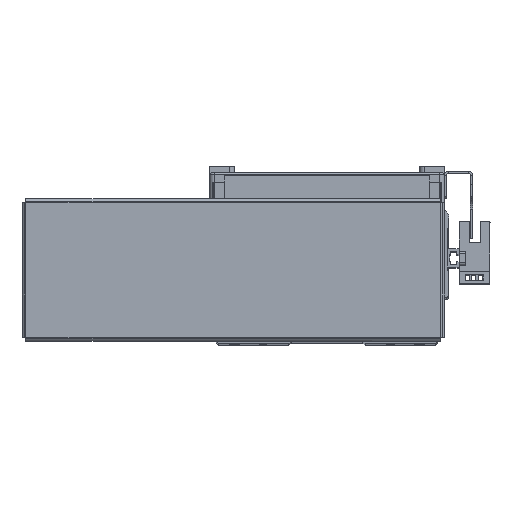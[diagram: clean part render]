
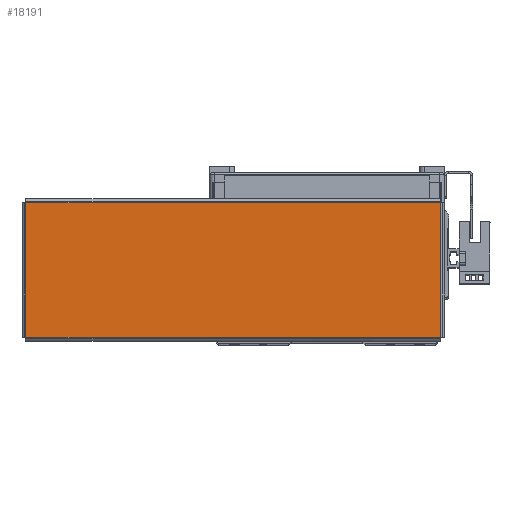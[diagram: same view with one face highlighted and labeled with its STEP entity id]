
A CAD part, top view. The second image highlights one B-rep face of the part: STEP entity #18191.
In plain terms, the highlighted planar face has unit normal (0, 0, 1) as drawn and (0, -1, 0) by its records, which use the part's own axes.
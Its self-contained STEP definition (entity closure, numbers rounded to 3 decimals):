
#4266 = VERTEX_POINT ( 'NONE', #55390 ) ;
#4271 = VERTEX_POINT ( 'NONE', #55357 ) ;
#4279 = VERTEX_POINT ( 'NONE', #55391 ) ;
#4290 = VERTEX_POINT ( 'NONE', #55392 ) ;
#7777 = FACE_OUTER_BOUND ( 'NONE', #24374, .T. ) ;
#18191 = ADVANCED_FACE ( 'NONE', ( #7777 ), #28172, .F. ) ;
#20720 = AXIS2_PLACEMENT_3D ( 'NONE', #28188, #28192, #28165 ) ;
#24374 = EDGE_LOOP ( 'NONE', ( #58304, #54979, #54999, #54986 ) ) ;
#28165 = DIRECTION ( 'NONE',  ( 0., 0., 1. ) ) ;
#28172 = PLANE ( 'NONE',  #20720 ) ;
#28188 = CARTESIAN_POINT ( 'NONE',  ( 0., -1., 0. ) ) ;
#28192 = DIRECTION ( 'NONE',  ( 0., 1., 0. ) ) ;
#44248 = EDGE_CURVE ( 'NONE', #4266, #4271, #45868, .T. ) ;
#44284 = EDGE_CURVE ( 'NONE', #4279, #4266, #46068, .T. ) ;
#44316 = EDGE_CURVE ( 'NONE', #4271, #4290, #46176, .T. ) ;
#44319 = EDGE_CURVE ( 'NONE', #4290, #4279, #46206, .T. ) ;
#45868 = LINE ( 'NONE', #61484, #45982 ) ;
#45982 = VECTOR ( 'NONE', #61480, 1000. ) ;
#46068 = LINE ( 'NONE', #61650, #46102 ) ;
#46102 = VECTOR ( 'NONE', #61633, 1000. ) ;
#46176 = LINE ( 'NONE', #61767, #46266 ) ;
#46202 = VECTOR ( 'NONE', #61703, 1000. ) ;
#46206 = LINE ( 'NONE', #61774, #46202 ) ;
#46266 = VECTOR ( 'NONE', #61770, 1000. ) ;
#54979 = ORIENTED_EDGE ( 'NONE', *, *, #44248, .T. ) ;
#54986 = ORIENTED_EDGE ( 'NONE', *, *, #44319, .T. ) ;
#54999 = ORIENTED_EDGE ( 'NONE', *, *, #44316, .T. ) ;
#55357 = CARTESIAN_POINT ( 'NONE',  ( 91.863, -1., 29.763 ) ) ;
#55390 = CARTESIAN_POINT ( 'NONE',  ( 91.863, -1., -29.763 ) ) ;
#55391 = CARTESIAN_POINT ( 'NONE',  ( -91.863, -1., -29.763 ) ) ;
#55392 = CARTESIAN_POINT ( 'NONE',  ( -91.863, -1., 29.763 ) ) ;
#58304 = ORIENTED_EDGE ( 'NONE', *, *, #44284, .T. ) ;
#61480 = DIRECTION ( 'NONE',  ( 0., 0., 1. ) ) ;
#61484 = CARTESIAN_POINT ( 'NONE',  ( 91.863, -1., -29.793 ) ) ;
#61633 = DIRECTION ( 'NONE',  ( 1., 0., 0. ) ) ;
#61650 = CARTESIAN_POINT ( 'NONE',  ( -91.893, -1., -29.763 ) ) ;
#61703 = DIRECTION ( 'NONE',  ( 0., 0., -1. ) ) ;
#61767 = CARTESIAN_POINT ( 'NONE',  ( 91.893, -1., 29.763 ) ) ;
#61770 = DIRECTION ( 'NONE',  ( -1., 0., 0. ) ) ;
#61774 = CARTESIAN_POINT ( 'NONE',  ( -91.863, -1., 29.793 ) ) ;
